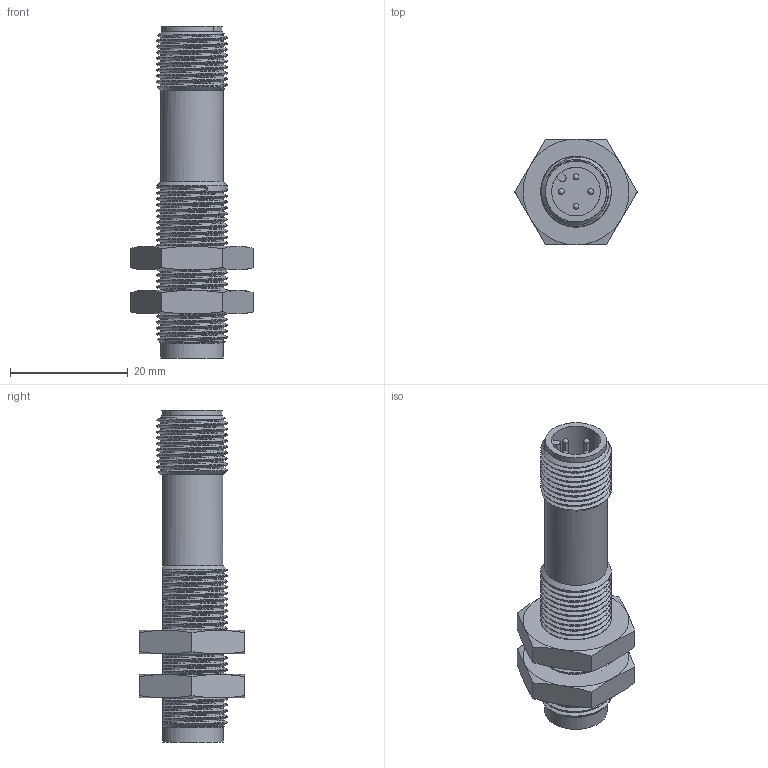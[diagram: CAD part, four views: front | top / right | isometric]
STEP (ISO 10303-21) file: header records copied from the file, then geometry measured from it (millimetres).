
FILE_DESCRIPTION(/* description */ ('Katalogmodell Elobau'),/* implementation_level */ '2;1');
FILE_NAME(/* name */ '122MSV10G1G_B.stp',/* time_stamp */ '2016-11-30T11:08:43+01:00',/* author */ ('Elobau GmbH & Co. KG'),/* organization */ ('Elobau GmbH & Co. KG'),/* preprocessor_version */ 'ST-DEVELOPER v15',/* originating_system */ 'SIEMENS PLM Software NX 8.5',/* authorisation */ '');
FILE_SCHEMA (('AUTOMOTIVE_DESIGN { 1 0 10303 214 3 1 1 1 }'));
Products named in the file (1): 122MSV10G1G_B
Bounding box: 20.78 x 18 x 56.5 mm (x, y, z)
Volume: 7240.7 mm3; surface area: 4784.7 mm2
Topology: 3 solids, 3 shells, 187 faces, 513 edges, 330 vertices
Faces by surface type: cylinder 71, bspline 56, cone 29, plane 27, sphere 4
Entity records: 63664 total; most frequent: CARTESIAN_POINT 59703, ORIENTED_EDGE 982, DIRECTION 534, EDGE_CURVE 491, VERTEX_POINT 319, B_SPLINE_CURVE_WITH_KNOTS 284, AXIS2_PLACEMENT_3D 196, EDGE_LOOP 194
